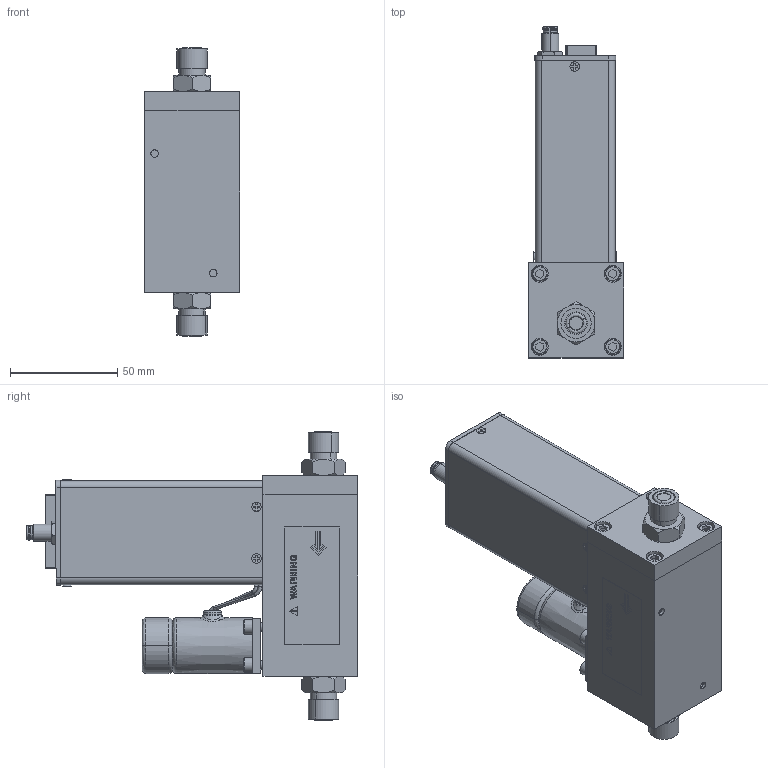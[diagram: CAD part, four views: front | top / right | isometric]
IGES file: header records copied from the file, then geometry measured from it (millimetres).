
Start section: SolidWorks IGES file using analytic representation for surfaces
Global section: file name: G:\Engineering\CAD MODELS FOR SALES\CAD MODEL STORAGE\SLA\SLA5851\CUSTOMER FILES\IGES\SLA5851-7-1F-1-A-REVB.IGS; native system: SolidWorks 2020; preprocessor: SolidWorks 2020; author: CFehr; date: 210211.090838; units: inch
Bounding box: 44.3 x 154.44 x 134.29 mm (x, y, z)
Volume: 81939.9 mm3; surface area: 119458.1 mm2
Topology: 60 solids, 60 shells, 2296 faces, 6116 edges, 3883 vertices
Faces by surface type: plane 1463, revolution 666, bspline 167
